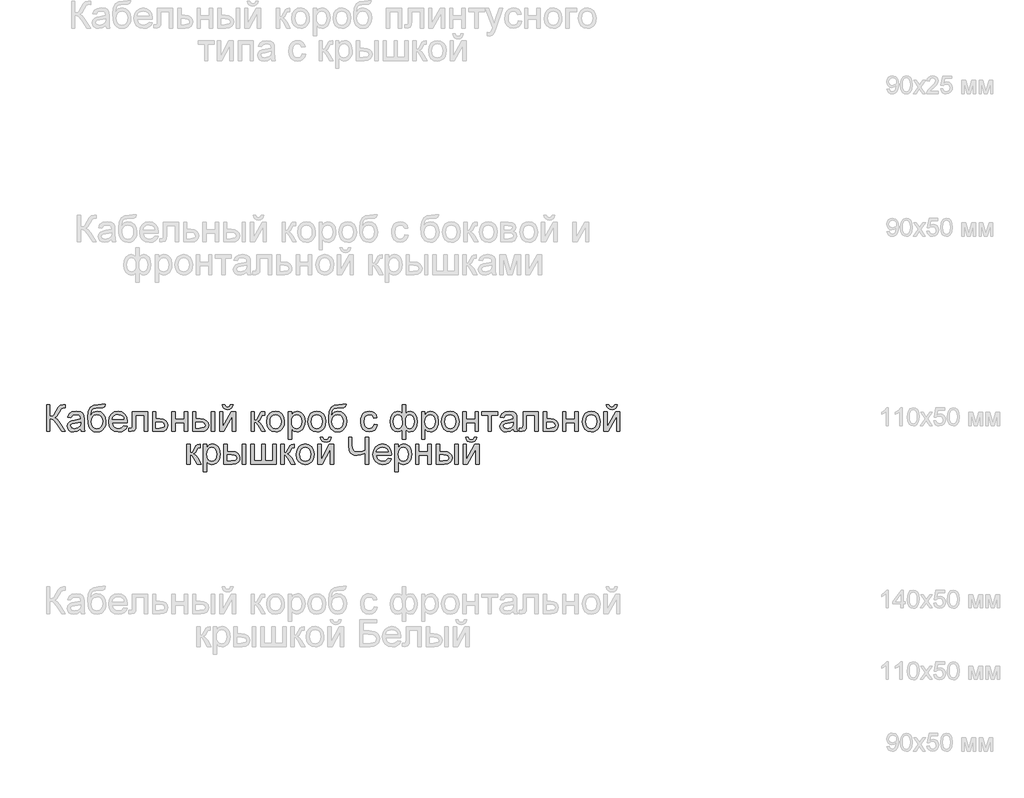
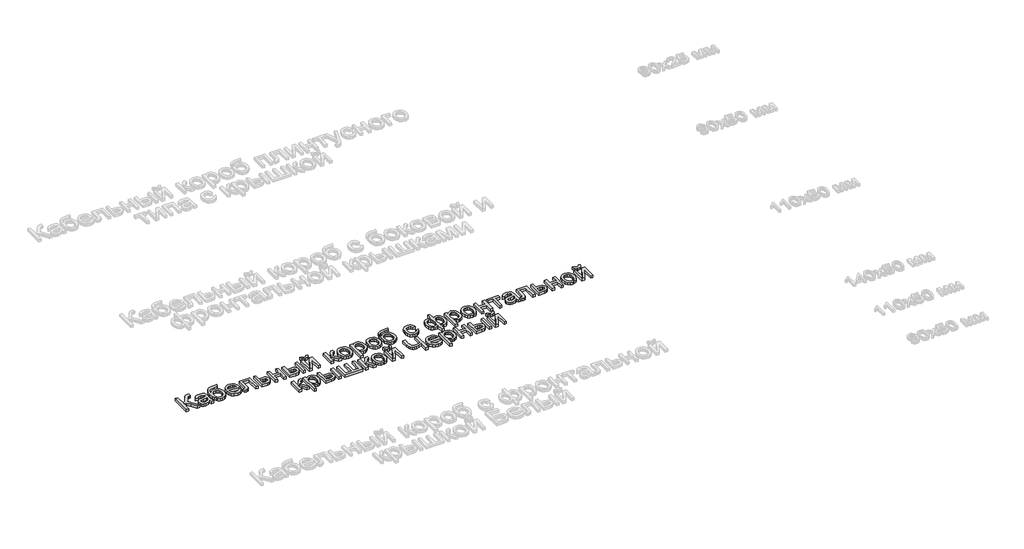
# One storey, part 26 of 48: 1 proxy.
"""IFC4 building model written with IfcOpenShell, lengths in millimetres."""

from ifc_helpers import new_model, si_unit, origin, origin_with_axes, place, context, project, spatial, polyline, outline, extrude, element, save

model = new_model("IFC4")

# Units and contexts
model_context = context("Model", 3, world=origin())
ifc_project = project(units=[si_unit("LENGTHUNIT", "METRE", prefix="MILLI")], contexts=[model_context])

# Site, building, storey
site = spatial("IfcSite", under=ifc_project)
building = spatial("IfcBuilding", under=site)
storey = spatial("IfcBuildingStorey", under=building, Name="Этаж 01", Elevation=0.0)

# Proxy
placement = place(None, origin())
element("IfcBuildingElementProxy", 1, Name="150 мм Arial", ObjectType="150 мм Arial", at=placement, inside=storey, context=model_context, shape_type="SweptSolid", body=[
    extrude(outline(polyline([(-4561.0026939, 2464.5958673), (-4542.1671357, 2464.5958673), (-4542.1671357, 2398.6714138), (-4529.415426, 2399.917614), (-4521.1058915, 2403.6562148), (-4506.4090058, 2428.8745256), (-4496.0163394, 2449.9357698), (-4484.2441156, 2460.3652244), (-4467.4135143, 2464.5958673), (-4455.0526792, 2464.3751381), (-4455.0526792, 2445.53958), (-4459.2097458, 2445.6499446), (-4463.3668123, 2445.7603092), (-4478.0820921, 2441.2353606), (-4489.2657048, 2421.8479795), (-4502.6014271, 2398.2299554), (-4515.6060557, 2390.4308571), (-4501.0655198, 2381.9143889), (-4486.727319, 2364.1640826), (-4455.0526792, 2313.9114021), (-4476.9048698, 2313.9114021), (-4503.686679, 2356.3649843), (-4522.5406313, 2378.5298745), (-4531.245639, 2383.0410275), (-4542.1671357, 2384.5447452), (-4542.1671357, 2313.9114021), (-4561.0026939, 2313.9114021), (-4561.0026939, 2464.5958673)])), origin_with_axes(), (0.0, 0.0, 1.0), 20.0),
    extrude(outline(polyline([(-4370.2926676, 2328.0380707), (-4388.5580086, 2315.2725655), (-4408.7363361, 2311.5569573), (-4424.4770869, 2313.7918404), (-4436.0883624, 2320.4964898), (-4443.2482657, 2330.677624), (-4445.6349002, 2343.3419617), (-4442.0296566, 2358.2411825), (-4432.5566952, 2369.0569132), (-4419.3681257, 2375.2373307), (-4403.0709533, 2378.0700221), (-4370.4030322, 2384.5447452), (-4370.2926676, 2388.7385999), (-4371.5894516, 2397.1447035), (-4375.4798037, 2402.6445393), (-4384.1802129, 2406.7280295), (-4396.3019246, 2408.0891929), (-4415.358212, 2404.4655552), (-4424.4448972, 2391.6080795), (-4443.2804554, 2393.9625242), (-4435.1318692, 2412.356624), (-4418.7243322, 2423.1355665), (-4393.8739034, 2426.924751), (-4371.0468256, 2423.5770249), (-4358.1525617, 2415.1709213), (-4352.3768144, 2402.3870219), (-4351.4571094, 2385.9059086), (-4351.4571094, 2362.4718255), (-4350.5006162, 2329.748722), (-4346.7482199, 2313.9114021), (-4365.583778, 2313.9114021), (-4370.2926676, 2328.0380707)]), holes=[polyline([(-4370.2926676, 2365.709187), (-4400.6797204, 2359.9334397), (-4416.8849222, 2356.8800191), (-4424.2241681, 2351.9136122), (-4426.799342, 2344.6663369), (-4421.1891416, 2334.4760056), (-4404.7264223, 2330.3925155), (-4385.670135, 2334.8990699), (-4373.3828763, 2345.8067711), (-4370.4030322, 2360.3748981), (-4370.2926676, 2365.709187)])]), origin_with_axes(), (0.0, 0.0, 1.0), 20.0),
    extrude(outline(polyline([(-4247.8615396, 2466.9503121), (-4231.3804262, 2466.9503121), (-4236.2364685, 2452.2534264), (-4245.8381886, 2446.9375316), (-4268.9043897, 2445.7603092), (-4299.9720242, 2441.4193016), (-4307.0997378, 2435.772313), (-4311.8914008, 2427.5133622), (-4315.9197087, 2402.9020567), (-4299.6041422, 2420.9282745), (-4289.6851239, 2425.4256319), (-4278.5796862, 2426.924751), (-4258.9807729, 2423.1125738), (-4243.0790736, 2411.6760423), (-4232.5392545, 2393.7371965), (-4229.0259814, 2370.4180766), (-4230.7688224, 2352.437844), (-4235.9973452, 2338.0076728), (-4252.5336409, 2318.4547447), (-4263.8276182, 2313.2814042), (-4278.5796862, 2311.5569573), (-4295.5804329, 2313.7780449), (-4308.3229455, 2320.4413075), (-4317.6993378, 2330.5672594), (-4324.6017238, 2343.1764148), (-4328.8507608, 2362.1637243), (-4330.2671065, 2391.4241385), (-4326.6940526, 2427.563946), (-4315.974891, 2449.604676), (-4297.8429071, 2460.8480695), (-4272.0313866, 2464.5958673), (-4251.0621129, 2465.0189316), (-4247.8615396, 2466.9503121)]), holes=[polyline([(-4247.8615396, 2371.0066877), (-4249.9032846, 2385.8277336), (-4256.0285199, 2397.6965265), (-4265.8693632, 2405.4910263), (-4279.0579328, 2408.0891929), (-4292.8075223, 2405.3438735), (-4303.0070506, 2397.1079153), (-4309.3254239, 2384.2826292), (-4311.4315483, 2367.7693262), (-4309.1046947, 2351.7618609), (-4302.1241339, 2340.0126297), (-4291.7314675, 2332.797544), (-4279.1682974, 2330.3925155), (-4266.5407479, 2333.1746231), (-4256.5435547, 2341.5209458), (-4250.0320433, 2354.4565965), (-4247.8615396, 2371.0066877)])]), origin_with_axes(), (0.0, 0.0, 1.0), 20.0),
    extrude(outline(polyline([(-4128.0055855, 2346.8736289), (-4109.5379094, 2344.5191841), (-4116.191975, 2330.6040476), (-4126.8099691, 2320.2021842), (-4141.1527683, 2313.718264), (-4158.9812495, 2311.5569573), (-4181.0817604, 2315.2863611), (-4198.0871056, 2326.4745722), (-4208.9304274, 2344.3950239), (-4212.544868, 2368.3211492), (-4208.8936392, 2393.0520163), (-4197.9399528, 2411.5472836), (-4181.1645338, 2423.0803842), (-4160.0481073, 2426.924751), (-4139.5892699, 2423.0895812), (-4123.2415137, 2411.5840718), (-4112.5223521, 2393.1255927), (-4108.9492982, 2368.4315138), (-4109.0596628, 2363.3547422), (-4193.7093099, 2363.3547422), (-4190.4489557, 2349.2556648), (-4182.8751851, 2338.8905896), (-4171.9444913, 2332.517034), (-4158.6133675, 2330.3925155), (-4140.1456914, 2334.3288528), (-4128.0055855, 2346.8736289)]), holes=[polyline([(-4193.7093099, 2382.1903004), (-4127.7848563, 2382.1903004), (-4130.3324392, 2392.1415084), (-4135.3264372, 2399.260025), (-4146.3077148, 2405.8819009), (-4160.1216837, 2408.0891929), (-4172.8182111, 2406.3279578), (-4183.3166435, 2401.0442527), (-4190.6145026, 2392.8082945), (-4193.7093099, 2382.1903004)])]), origin_with_axes(), (0.0, 0.0, 1.0), 20.0),
    extrude(outline(polyline([(-4080.695961, 2424.5703062), (-3995.9359493, 2424.5703062), (-3995.9359493, 2314.0217667), (-4014.7715074, 2314.0217667), (-4014.7715074, 2405.7347481), (-4061.8604028, 2405.7347481), (-4061.8604028, 2352.9436818), (-4063.1295957, 2328.5898937), (-4070.1009595, 2318.3075919), (-4086.5820729, 2313.9114021), (-4101.8859639, 2314.8678953), (-4101.8859639, 2332.7469602), (-4093.4614662, 2332.7469602), (-4084.944998, 2333.9057885), (-4081.5420895, 2337.5846085), (-4080.695961, 2354.0105396), (-4080.695961, 2424.5703062)])), origin_with_axes(), (0.0, 0.0, 1.0), 20.0),
    extrude(outline(polyline([(-3967.682612, 2424.5703062), (-3948.8470539, 2424.5703062), (-3948.8470539, 2384.5447452), (-3927.1420162, 2384.5447452), (-3908.3248521, 2382.1857019), (-3894.4005186, 2375.108572), (-3885.7920799, 2363.8835726), (-3882.9226003, 2349.0809208), (-3885.3644171, 2335.6026442), (-3892.6898673, 2324.2304921), (-3905.3863947, 2316.4911746), (-3923.9414428, 2313.9114021), (-3967.682612, 2313.9114021), (-3967.682612, 2424.5703062)]), holes=[polyline([(-3948.8470539, 2332.7469602), (-3931.2622945, 2332.7469602), (-3908.5455813, 2336.7016917), (-3903.4550142, 2341.7646677), (-3901.7581585, 2349.0441326), (-3906.7797477, 2360.6324155), (-3914.850159, 2364.4399941), (-3929.0182143, 2365.709187), (-3948.8470539, 2365.709187), (-3948.8470539, 2332.7469602)])]), origin_with_axes(), (0.0, 0.0, 1.0), 20.0),
    extrude(outline(polyline([(-3859.3781527, 2424.5703062), (-3840.5425945, 2424.5703062), (-3840.5425945, 2382.1903004), (-3791.0992544, 2382.1903004), (-3791.0992544, 2424.5703062), (-3772.2636962, 2424.5703062), (-3772.2636962, 2313.9114021), (-3791.0992544, 2313.9114021), (-3791.0992544, 2363.3547422), (-3840.5425945, 2363.3547422), (-3840.5425945, 2313.9114021), (-3859.3781527, 2313.9114021), (-3859.3781527, 2424.5703062)])), origin_with_axes(), (0.0, 0.0, 1.0), 20.0),
    extrude(outline(polyline([(-3640.4147891, 2424.5703062), (-3621.579231, 2424.5703062), (-3621.579231, 2313.9114021), (-3640.4147891, 2313.9114021), (-3640.4147891, 2424.5703062)])), origin_with_axes(), (0.0, 0.0, 1.0), 20.0),
    extrude(outline(polyline([(-3744.010359, 2424.5703062), (-3725.1748008, 2424.5703062), (-3725.1748008, 2384.5447452), (-3701.8878705, 2384.5447452), (-3681.7601269, 2382.1857019), (-3666.8471105, 2375.108572), (-3657.6178709, 2363.8835726), (-3654.5414577, 2349.0809208), (-3657.1212302, 2335.6026442), (-3664.8605477, 2324.2304921), (-3678.2652479, 2316.4911746), (-3697.8411686, 2313.9114021), (-3744.010359, 2313.9114021), (-3744.010359, 2424.5703062)]), holes=[polyline([(-3725.1748008, 2332.7469602), (-3705.8242079, 2332.7469602), (-3680.8450204, 2336.7016917), (-3675.244017, 2341.7646677), (-3673.3770159, 2349.0441326), (-3678.9136399, 2360.6324155), (-3687.7933916, 2364.4399941), (-3703.3593985, 2365.709187), (-3725.1748008, 2365.709187), (-3725.1748008, 2332.7469602)])]), origin_with_axes(), (0.0, 0.0, 1.0), 20.0),
    extrude(outline(polyline([(-3532.1103297, 2464.5958673), (-3517.9836611, 2464.5958673), (-3521.0232861, 2452.5339364), (-3527.1255287, 2443.6449877), (-3536.0144774, 2438.1681445), (-3547.4142207, 2436.3425301), (-3559.7842528, 2438.1543489), (-3569.3767759, 2443.5898054), (-3575.9342724, 2452.4649585), (-3579.1992251, 2464.5958673), (-3565.0725565, 2464.5958673), (-3559.7750558, 2453.9824718), (-3549.1064779, 2450.4691987), (-3537.4078305, 2453.8721072), (-3532.1103297, 2464.5958673)])), origin_with_axes(), (0.0, 0.0, 1.0), 20.0),
    extrude(outline(polyline([(-3593.3258937, 2424.5703062), (-3574.4903356, 2424.5703062), (-3574.4903356, 2340.1781766), (-3528.2107806, 2424.5703062), (-3503.8569925, 2424.5703062), (-3503.8569925, 2313.9114021), (-3522.6925507, 2313.9114021), (-3522.6925507, 2397.788497), (-3568.6778001, 2313.9114021), (-3593.3258937, 2313.9114021), (-3593.3258937, 2424.5703062)])), origin_with_axes(), (0.0, 0.0, 1.0), 20.0),
    extrude(outline(polyline([(-3416.7425361, 2424.5703062), (-3397.9069779, 2424.5703062), (-3397.9069779, 2377.4814109), (-3385.2886255, 2380.8659252), (-3374.9511414, 2400.5844002), (-3366.3610968, 2417.5989424), (-3358.7827277, 2423.1355665), (-3345.005547, 2424.5703062), (-3341.4003034, 2424.5703062), (-3341.4003034, 2405.6243835), (-3346.477075, 2405.7347481), (-3355.6741249, 2403.7481853), (-3362.148848, 2391.3505621), (-3369.7456112, 2377.9412634), (-3380.3957949, 2371.3745697), (-3368.5132065, 2364.044521), (-3356.8513472, 2348.6026742), (-3336.6914139, 2313.9114021), (-3358.102146, 2313.9114021), (-3377.8574092, 2347.8669103), (-3387.790223, 2362.2327022), (-3397.9069779, 2365.709187), (-3397.9069779, 2313.9114021), (-3416.7425361, 2313.9114021), (-3416.7425361, 2424.5703062)])), origin_with_axes(), (0.0, 0.0, 1.0), 20.0),
    extrude(outline(polyline([(-3329.6280796, 2369.2408542), (-3325.5537865, 2395.9214959), (-3313.3309072, 2414.6742806), (-3298.2293513, 2423.8621334), (-3280.1479513, 2426.924751), (-3260.3604984, 2423.1953473), (-3244.5553682, 2412.0071361), (-3234.1948915, 2394.2430343), (-3230.7413993, 2370.7859586), (-3232.2681096, 2351.7572624), (-3236.8482404, 2337.2719088), (-3244.3484346, 2326.4239885), (-3254.6353349, 2318.3075919), (-3266.8536157, 2313.244616), (-3280.1479513, 2311.5569573), (-3300.1745274, 2315.2725655), (-3315.9612635, 2326.4193899), (-3326.2113756, 2344.5559723), (-3329.6280796, 2369.2408542)]), holes=[polyline([(-3310.7925214, 2369.2776424), (-3308.6128206, 2352.2309104), (-3302.0737182, 2340.0862061), (-3292.2328748, 2332.8159381), (-3280.1479513, 2330.3925155), (-3268.11821, 2332.8297337), (-3258.2957607, 2340.1413884), (-3251.7566583, 2352.4470411), (-3249.5769575, 2369.8662536), (-3251.7704538, 2386.4163448), (-3258.350943, 2398.3955023), (-3268.1871879, 2405.6657702), (-3280.1479513, 2408.0891929), (-3292.2328748, 2405.6749673), (-3302.0737182, 2398.4322905), (-3308.6128206, 2386.3151773), (-3310.7925214, 2369.2776424)])]), origin_with_axes(), (0.0, 0.0, 1.0), 20.0),
    extrude(outline(polyline([(-3209.5513964, 2271.5313963), (-3209.5513964, 2424.5703062), (-3190.7158382, 2424.5703062), (-3190.7158382, 2406.1026301), (-3177.6928156, 2421.7192208), (-3160.1080562, 2426.924751), (-3147.3701421, 2425.1037351), (-3136.2325147, 2419.6406875), (-3127.1642236, 2410.8667019), (-3120.6343181, 2399.1128722), (-3115.3736056, 2370.0869828), (-3116.8589292, 2353.9783499), (-3121.3148998, 2339.5711713), (-3128.5989633, 2327.5966123), (-3138.5685654, 2318.7858385), (-3150.1798409, 2313.3641776), (-3162.3889246, 2311.5569573), (-3178.7780675, 2316.3946056), (-3190.7158382, 2328.6266819), (-3190.7158382, 2271.5313963), (-3209.5513964, 2271.5313963)]), holes=[polyline([(-3190.7158382, 2368.3579374), (-3188.6786917, 2351.4721538), (-3182.567252, 2339.6631418), (-3173.5495446, 2332.710172), (-3162.7935948, 2330.3925155), (-3151.862901, 2332.7929455), (-3142.6152674, 2339.9942356), (-3136.3106897, 2352.2355089), (-3134.2091638, 2369.755889), (-3136.2601059, 2386.549702), (-3142.4129323, 2398.524261), (-3151.4168441, 2405.6979599), (-3162.0210426, 2408.0891929), (-3172.6666278, 2405.5462086), (-3182.015429, 2397.9172557), (-3188.5407359, 2385.4414575), (-3190.7158382, 2368.3579374)])]), origin_with_axes(), (0.0, 0.0, 1.0), 20.0),
    extrude(outline(polyline([(-3098.8924922, 2369.2408542), (-3094.8181991, 2395.9214959), (-3082.5953198, 2414.6742806), (-3067.4937639, 2423.8621334), (-3049.4123639, 2426.924751), (-3029.6249111, 2423.1953473), (-3013.8197808, 2412.0071361), (-3003.4593042, 2394.2430343), (-3000.0058119, 2370.7859586), (-3001.5325222, 2351.7572624), (-3006.112653, 2337.2719088), (-3013.6128472, 2326.4239885), (-3023.8997475, 2318.3075919), (-3036.1180283, 2313.244616), (-3049.4123639, 2311.5569573), (-3069.43894, 2315.2725655), (-3085.2256761, 2326.4193899), (-3095.4757882, 2344.5559723), (-3098.8924922, 2369.2408542)]), holes=[polyline([(-3080.0569341, 2369.2776424), (-3077.8772333, 2352.2309104), (-3071.3381308, 2340.0862061), (-3061.4972874, 2332.8159381), (-3049.4123639, 2330.3925155), (-3037.3826226, 2332.8297337), (-3027.5601734, 2340.1413884), (-3021.0210709, 2352.4470411), (-3018.8413701, 2369.8662536), (-3021.0348665, 2386.4163448), (-3027.6153557, 2398.3955023), (-3037.4516005, 2405.6657702), (-3049.4123639, 2408.0891929), (-3061.4972874, 2405.6749673), (-3071.3381308, 2398.4322905), (-3077.8772333, 2386.3151773), (-3080.0569341, 2369.2776424)])]), origin_with_axes(), (0.0, 0.0, 1.0), 20.0),
    extrude(outline(polyline([(-2901.1191316, 2466.9503121), (-2884.6380182, 2466.9503121), (-2889.4940606, 2452.2534264), (-2899.0957806, 2446.9375316), (-2922.1619817, 2445.7603092), (-2953.2296162, 2441.4193016), (-2960.3573299, 2435.772313), (-2965.1489929, 2427.5133622), (-2969.1773007, 2402.9020567), (-2952.8617342, 2420.9282745), (-2942.9427159, 2425.4256319), (-2931.8372782, 2426.924751), (-2912.2383649, 2423.1125738), (-2896.3366657, 2411.6760423), (-2885.7968465, 2393.7371965), (-2882.2835735, 2370.4180766), (-2884.0264144, 2352.437844), (-2889.2549373, 2338.0076728), (-2905.791233, 2318.4547447), (-2917.0852102, 2313.2814042), (-2931.8372782, 2311.5569573), (-2948.8380249, 2313.7780449), (-2961.5805375, 2320.4413075), (-2970.9569299, 2330.5672594), (-2977.8593158, 2343.1764148), (-2982.1083529, 2362.1637243), (-2983.5246985, 2391.4241385), (-2979.9516447, 2427.563946), (-2969.232483, 2449.604676), (-2951.1004992, 2460.8480695), (-2925.2889787, 2464.5958673), (-2904.319705, 2465.0189316), (-2901.1191316, 2466.9503121)]), holes=[polyline([(-2901.1191316, 2371.0066877), (-2903.1608767, 2385.8277336), (-2909.2861119, 2397.6965265), (-2919.1269553, 2405.4910263), (-2932.3155248, 2408.0891929), (-2946.0651144, 2405.3438735), (-2956.2646427, 2397.1079153), (-2962.583016, 2384.2826292), (-2964.6891404, 2367.7693262), (-2962.3622868, 2351.7618609), (-2955.3817259, 2340.0126297), (-2944.9890595, 2332.797544), (-2932.4258894, 2330.3925155), (-2919.7983399, 2333.1746231), (-2909.8011467, 2341.5209458), (-2903.2896354, 2354.4565965), (-2901.1191316, 2371.0066877)])]), origin_with_axes(), (0.0, 0.0, 1.0), 20.0),
    extrude(outline(polyline([(-2729.2446635, 2353.9369632), (-2710.4091053, 2351.5825184), (-2715.6606208, 2334.830092), (-2725.5290553, 2322.1703529), (-2739.0855068, 2314.2103062), (-2755.4010733, 2311.5569573), (-2775.4368465, 2315.2587699), (-2791.104021, 2326.3642076), (-2801.2161773, 2344.3858269), (-2804.5868961, 2368.836184), (-2803.1475578, 2385.5978074), (-2798.8295429, 2400.1245477), (-2791.5638735, 2411.8553848), (-2781.2815717, 2420.2292987), (-2768.9805175, 2425.2508879), (-2755.6585907, 2426.924751), (-2739.7430959, 2424.6254885), (-2727.0189774, 2417.7277011), (-2717.8909054, 2406.5992708), (-2712.7635501, 2391.6080795), (-2731.5991082, 2389.2536347), (-2740.3363056, 2403.3619092), (-2755.5114379, 2408.0891929), (-2767.6837334, 2405.7623392), (-2777.3452343, 2398.7817784), (-2783.649812, 2386.7704312), (-2785.7513379, 2369.3512188), (-2783.6957973, 2351.6974815), (-2777.5291753, 2339.6447477), (-2768.0424184, 2332.7055735), (-2756.0264727, 2330.3925155), (-2746.2730013, 2331.8364523), (-2738.2761665, 2336.1682628), (-2732.4590324, 2343.4983116), (-2729.2446635, 2353.9369632)])), origin_with_axes(), (0.0, 0.0, 1.0), 20.0),
    extrude(outline(polyline([(-2571.4968639, 2464.5958673), (-2552.6613058, 2464.5958673), (-2552.6613058, 2413.9385166), (-2540.6867468, 2423.7057836), (-2526.6520487, 2426.924751), (-2510.1663368, 2422.8320638), (-2497.4974006, 2410.5540022), (-2489.4269893, 2392.067932), (-2486.7368523, 2369.3512188), (-2489.633923, 2345.9401283), (-2498.3251351, 2327.5046418), (-2511.3205666, 2315.5438785), (-2527.1302953, 2311.5569573), (-2538.6450018, 2313.3963673), (-2552.6613058, 2323.4395458), (-2552.6613058, 2271.5313963), (-2571.4968639, 2271.5313963), (-2571.4968639, 2323.4395458), (-2583.5266052, 2314.5368015), (-2597.7636384, 2311.5569573), (-2613.545776, 2315.364536), (-2627.194198, 2326.7872719), (-2636.6303712, 2345.3009333), (-2639.7757622, 2370.3812884), (-2636.9292753, 2392.4634051), (-2628.3898145, 2410.6643668), (-2615.0402966, 2422.859655), (-2597.7636384, 2426.924751), (-2583.1771173, 2423.7057836), (-2571.4968639, 2413.9385166), (-2571.4968639, 2464.5958673)]), holes=[polyline([(-2620.9402041, 2370.7859586), (-2619.0548089, 2352.3090853), (-2613.3986232, 2339.8470828), (-2604.9465344, 2332.7561573), (-2594.6734296, 2330.3925155), (-2584.4509087, 2332.7423617), (-2577.1806408, 2339.7919005), (-2572.8350347, 2351.5411317), (-2571.3864993, 2367.9900554), (-2572.9086111, 2385.533428), (-2577.4749464, 2398.0644085), (-2585.1130963, 2405.5829968), (-2595.850652, 2408.0891929), (-2605.9306187, 2405.6427776), (-2613.9504462, 2398.3035318), (-2619.1927646, 2386.5313079), (-2620.9402041, 2370.7859586)]), polyline([(-2552.7716704, 2368.9097604), (-2551.2035734, 2349.8396775), (-2546.4992824, 2338.2467961), (-2539.4313495, 2332.3560856), (-2530.7723271, 2330.3925155), (-2521.0924321, 2332.8067411), (-2512.9484444, 2340.0494179), (-2507.4164189, 2352.3780632), (-2505.5724104, 2370.0501946), (-2507.2738646, 2386.8072194), (-2512.3782273, 2398.6714138), (-2520.1497345, 2405.7347481), (-2529.8526221, 2408.0891929), (-2539.8452168, 2405.6381791), (-2547.0143172, 2398.2851377), (-2551.3323321, 2386.0392658), (-2552.7716704, 2368.9097604)])]), origin_with_axes(), (0.0, 0.0, 1.0), 20.0),
    extrude(outline(polyline([(-2463.1924046, 2271.5313963), (-2463.1924046, 2424.5703062), (-2444.3568464, 2424.5703062), (-2444.3568464, 2406.1026301), (-2431.3338238, 2421.7192208), (-2413.7490644, 2426.924751), (-2401.0111503, 2425.1037351), (-2389.8735229, 2419.6406875), (-2380.8052317, 2410.8667019), (-2374.2753263, 2399.1128722), (-2369.0146138, 2370.0869828), (-2370.4999374, 2353.9783499), (-2374.955908, 2339.5711713), (-2382.2399715, 2327.5966123), (-2392.2095736, 2318.7858385), (-2403.8208491, 2313.3641776), (-2416.0299328, 2311.5569573), (-2432.4190757, 2316.3946056), (-2444.3568464, 2328.6266819), (-2444.3568464, 2271.5313963), (-2463.1924046, 2271.5313963)]), holes=[polyline([(-2444.3568464, 2368.3579374), (-2442.3196999, 2351.4721538), (-2436.2082602, 2339.6631418), (-2427.1905528, 2332.710172), (-2416.434603, 2330.3925155), (-2405.5039092, 2332.7929455), (-2396.2562755, 2339.9942356), (-2389.9516978, 2352.2355089), (-2387.850172, 2369.755889), (-2389.9011141, 2386.549702), (-2396.0539404, 2398.524261), (-2405.0578523, 2405.6979599), (-2415.6620508, 2408.0891929), (-2426.307636, 2405.5462086), (-2435.6564372, 2397.9172557), (-2442.1817441, 2385.4414575), (-2444.3568464, 2368.3579374)])]), origin_with_axes(), (0.0, 0.0, 1.0), 20.0),
    extrude(outline(polyline([(-2352.5335004, 2369.2408542), (-2348.4592073, 2395.9214959), (-2336.236328, 2414.6742806), (-2321.1347721, 2423.8621334), (-2303.0533721, 2426.924751), (-2283.2659192, 2423.1953473), (-2267.460789, 2412.0071361), (-2257.1003123, 2394.2430343), (-2253.6468201, 2370.7859586), (-2255.1735304, 2351.7572624), (-2259.7536612, 2337.2719088), (-2267.2538554, 2326.4239885), (-2277.5407557, 2318.3075919), (-2289.7590365, 2313.244616), (-2303.0533721, 2311.5569573), (-2323.0799482, 2315.2725655), (-2338.8666843, 2326.4193899), (-2349.1167964, 2344.5559723), (-2352.5335004, 2369.2408542)]), holes=[polyline([(-2333.6979423, 2369.2776424), (-2331.5182414, 2352.2309104), (-2324.979139, 2340.0862061), (-2315.1382956, 2332.8159381), (-2303.0533721, 2330.3925155), (-2291.0236308, 2332.8297337), (-2281.2011815, 2340.1413884), (-2274.6620791, 2352.4470411), (-2272.4823783, 2369.8662536), (-2274.6758747, 2386.4163448), (-2281.2563638, 2398.3955023), (-2291.0926087, 2405.6657702), (-2303.0533721, 2408.0891929), (-2315.1382956, 2405.6749673), (-2324.979139, 2398.4322905), (-2331.5182414, 2386.3151773), (-2333.6979423, 2369.2776424)])]), origin_with_axes(), (0.0, 0.0, 1.0), 20.0),
    extrude(outline(polyline([(-2232.4568172, 2424.5703062), (-2213.621259, 2424.5703062), (-2213.621259, 2382.1903004), (-2164.1779189, 2382.1903004), (-2164.1779189, 2424.5703062), (-2145.3423607, 2424.5703062), (-2145.3423607, 2313.9114021), (-2164.1779189, 2313.9114021), (-2164.1779189, 2363.3547422), (-2213.621259, 2363.3547422), (-2213.621259, 2313.9114021), (-2232.4568172, 2313.9114021), (-2232.4568172, 2424.5703062)])), origin_with_axes(), (0.0, 0.0, 1.0), 20.0),
    extrude(outline(polyline([(-2126.5068026, 2424.5703062), (-2037.0379013, 2424.5703062), (-2037.0379013, 2405.7347481), (-2072.3545729, 2405.7347481), (-2072.3545729, 2313.9114021), (-2091.190131, 2313.9114021), (-2091.190131, 2405.7347481), (-2126.5068026, 2405.7347481), (-2126.5068026, 2424.5703062)])), origin_with_axes(), (0.0, 0.0, 1.0), 20.0),
    extrude(outline(polyline([(-1949.9234449, 2328.0380707), (-1968.188786, 2315.2725655), (-1988.3671134, 2311.5569573), (-2004.1078643, 2313.7918404), (-2015.7191397, 2320.4964898), (-2022.8790431, 2330.677624), (-2025.2656775, 2343.3419617), (-2021.660434, 2358.2411825), (-2012.1874726, 2369.0569132), (-1998.998903, 2375.2373307), (-1982.7017307, 2378.0700221), (-1950.0338095, 2384.5447452), (-1949.9234449, 2388.7385999), (-1951.2202289, 2397.1447035), (-1955.110581, 2402.6445393), (-1963.8109902, 2406.7280295), (-1975.932702, 2408.0891929), (-1994.9889893, 2404.4655552), (-2004.0756746, 2391.6080795), (-2022.9112327, 2393.9625242), (-2014.7626465, 2412.356624), (-1998.3551096, 2423.1355665), (-1973.5046808, 2426.924751), (-1950.677603, 2423.5770249), (-1937.7833391, 2415.1709213), (-1932.0075917, 2402.3870219), (-1931.0878867, 2385.9059086), (-1931.0878867, 2362.4718255), (-1930.1313936, 2329.748722), (-1926.3789972, 2313.9114021), (-1945.2145554, 2313.9114021), (-1949.9234449, 2328.0380707)]), holes=[polyline([(-1949.9234449, 2365.709187), (-1980.3104977, 2359.9334397), (-1996.5156996, 2356.8800191), (-2003.8549454, 2351.9136122), (-2006.4301194, 2344.6663369), (-2000.8199189, 2334.4760056), (-1984.3571996, 2330.3925155), (-1965.3009123, 2334.8990699), (-1953.0136537, 2345.8067711), (-1950.0338095, 2360.3748981), (-1949.9234449, 2365.709187)])]), origin_with_axes(), (0.0, 0.0, 1.0), 20.0),
    extrude(outline(polyline([(-1895.7712152, 2424.5703062), (-1811.0112035, 2424.5703062), (-1811.0112035, 2314.0217667), (-1829.8467617, 2314.0217667), (-1829.8467617, 2405.7347481), (-1876.935657, 2405.7347481), (-1876.935657, 2352.9436818), (-1878.2048499, 2328.5898937), (-1885.1762137, 2318.3075919), (-1901.6573271, 2313.9114021), (-1916.9612181, 2314.8678953), (-1916.9612181, 2332.7469602), (-1908.5367204, 2332.7469602), (-1900.0202522, 2333.9057885), (-1896.6173438, 2337.5846085), (-1895.7712152, 2354.0105396), (-1895.7712152, 2424.5703062)])), origin_with_axes(), (0.0, 0.0, 1.0), 20.0),
    extrude(outline(polyline([(-1782.7578663, 2424.5703062), (-1763.9223081, 2424.5703062), (-1763.9223081, 2384.5447452), (-1742.2172704, 2384.5447452), (-1723.4001064, 2382.1857019), (-1709.4757728, 2375.108572), (-1700.8673342, 2363.8835726), (-1697.9978546, 2349.0809208), (-1700.4396713, 2335.6026442), (-1707.7651216, 2324.2304921), (-1720.4616489, 2316.4911746), (-1739.0166971, 2313.9114021), (-1782.7578663, 2313.9114021), (-1782.7578663, 2424.5703062)]), holes=[polyline([(-1763.9223081, 2332.7469602), (-1746.3375488, 2332.7469602), (-1723.6208356, 2336.7016917), (-1718.5302685, 2341.7646677), (-1716.8334127, 2349.0441326), (-1721.855002, 2360.6324155), (-1729.9254133, 2364.4399941), (-1744.0934686, 2365.709187), (-1763.9223081, 2365.709187), (-1763.9223081, 2332.7469602)])]), origin_with_axes(), (0.0, 0.0, 1.0), 20.0),
    extrude(outline(polyline([(-1674.4534069, 2424.5703062), (-1655.6178488, 2424.5703062), (-1655.6178488, 2382.1903004), (-1606.1745086, 2382.1903004), (-1606.1745086, 2424.5703062), (-1587.3389504, 2424.5703062), (-1587.3389504, 2313.9114021), (-1606.1745086, 2313.9114021), (-1606.1745086, 2363.3547422), (-1655.6178488, 2363.3547422), (-1655.6178488, 2313.9114021), (-1674.4534069, 2313.9114021), (-1674.4534069, 2424.5703062)])), origin_with_axes(), (0.0, 0.0, 1.0), 20.0),
    extrude(outline(polyline([(-1563.7945028, 2369.2408542), (-1559.7202097, 2395.9214959), (-1547.4973304, 2414.6742806), (-1532.3957745, 2423.8621334), (-1514.3143744, 2426.924751), (-1494.5269216, 2423.1953473), (-1478.7217914, 2412.0071361), (-1468.3613147, 2394.2430343), (-1464.9078225, 2370.7859586), (-1466.4345327, 2351.7572624), (-1471.0146636, 2337.2719088), (-1478.5148577, 2326.4239885), (-1488.801758, 2318.3075919), (-1501.0200388, 2313.244616), (-1514.3143744, 2311.5569573), (-1534.3409505, 2315.2725655), (-1550.1276866, 2326.4193899), (-1560.3777987, 2344.5559723), (-1563.7945028, 2369.2408542)]), holes=[polyline([(-1544.9589446, 2369.2776424), (-1542.7792438, 2352.2309104), (-1536.2401413, 2340.0862061), (-1526.3992979, 2332.8159381), (-1514.3143744, 2330.3925155), (-1502.2846332, 2332.8297337), (-1492.4621839, 2340.1413884), (-1485.9230814, 2352.4470411), (-1483.7433806, 2369.8662536), (-1485.936877, 2386.4163448), (-1492.5173662, 2398.3955023), (-1502.353611, 2405.6657702), (-1514.3143744, 2408.0891929), (-1526.3992979, 2405.6749673), (-1536.2401413, 2398.4322905), (-1542.7792438, 2386.3151773), (-1544.9589446, 2369.2776424)])]), origin_with_axes(), (0.0, 0.0, 1.0), 20.0),
    extrude(outline(polyline([(-1443.7178195, 2424.5703062), (-1424.8822614, 2424.5703062), (-1424.8822614, 2340.1781766), (-1378.6027064, 2424.5703062), (-1354.2489183, 2424.5703062), (-1354.2489183, 2313.9114021), (-1373.0844765, 2313.9114021), (-1373.0844765, 2397.788497), (-1419.0697259, 2313.9114021), (-1443.7178195, 2313.9114021), (-1443.7178195, 2424.5703062)])), origin_with_axes(), (0.0, 0.0, 1.0), 20.0),
    extrude(outline(polyline([(-1382.5022555, 2464.5958673), (-1368.3755869, 2464.5958673), (-1371.4152119, 2452.5339364), (-1377.5174545, 2443.6449877), (-1386.4064032, 2438.1681445), (-1397.8061465, 2436.3425301), (-1410.1761786, 2438.1543489), (-1419.7687016, 2443.5898054), (-1426.3261982, 2452.4649585), (-1429.5911509, 2464.5958673), (-1415.4644823, 2464.5958673), (-1410.1669816, 2453.9824718), (-1399.4984037, 2450.4691987), (-1387.7997563, 2453.8721072), (-1382.5022555, 2464.5958673)])), origin_with_axes(), (0.0, 0.0, 1.0), 20.0),
    extrude(outline(polyline([(-3775.7953634, 2241.6080795), (-3756.9598052, 2241.6080795), (-3756.9598052, 2194.5191841), (-3744.3414528, 2197.9036985), (-3734.0039687, 2217.6221734), (-3725.4139241, 2234.6367157), (-3717.835555, 2240.1733397), (-3704.0583743, 2241.6080795), (-3700.4531307, 2241.6080795), (-3700.4531307, 2222.6621567), (-3705.5299023, 2222.7725213), (-3714.7269522, 2220.7859586), (-3721.2016753, 2208.3883353), (-3728.7984385, 2194.9790366), (-3739.4486222, 2188.412343), (-3727.5660338, 2181.0822942), (-3715.9041745, 2165.6404475), (-3695.7442412, 2130.9491753), (-3717.1549733, 2130.9491753), (-3736.9102365, 2164.9046835), (-3746.8430503, 2179.2704754), (-3756.9598052, 2182.7469602), (-3756.9598052, 2130.9491753), (-3775.7953634, 2130.9491753), (-3775.7953634, 2241.6080795)])), origin_with_axes(), (0.0, 0.0, 1.0), 20.0),
    extrude(outline(polyline([(-3683.9720174, 2088.5691695), (-3683.9720174, 2241.6080795), (-3665.1364592, 2241.6080795), (-3665.1364592, 2223.1404033), (-3652.1134366, 2238.756994), (-3634.5286772, 2243.9625242), (-3621.7907631, 2242.1415084), (-3610.6531357, 2236.6784607), (-3601.5848445, 2227.9044752), (-3595.0549391, 2216.1506454), (-3589.7942266, 2187.124756), (-3591.2795501, 2171.0161231), (-3595.7355208, 2156.6089445), (-3603.0195843, 2144.6343855), (-3612.9891864, 2135.8236118), (-3624.6004619, 2130.4019509), (-3636.8095456, 2128.5947306), (-3653.1986885, 2133.4323788), (-3665.1364592, 2145.6644551), (-3665.1364592, 2088.5691695), (-3683.9720174, 2088.5691695)]), holes=[polyline([(-3665.1364592, 2185.3957106), (-3663.0993127, 2168.509927), (-3656.987873, 2156.700915), (-3647.9701656, 2149.7479453), (-3637.2142158, 2147.4302887), (-3626.283522, 2149.8307187), (-3617.0358883, 2157.0320088), (-3610.7313106, 2169.2732822), (-3608.6297847, 2186.7936622), (-3610.6807269, 2203.5874753), (-3616.8335532, 2215.5620342), (-3625.8374651, 2222.7357331), (-3636.4416636, 2225.1269661), (-3647.0872488, 2222.5839818), (-3656.43605, 2214.9550289), (-3662.9613569, 2202.4792308), (-3665.1364592, 2185.3957106)])]), origin_with_axes(), (0.0, 0.0, 1.0), 20.0),
    extrude(outline(polyline([(-3465.0086538, 2241.6080795), (-3446.1730957, 2241.6080795), (-3446.1730957, 2130.9491753), (-3465.0086538, 2130.9491753), (-3465.0086538, 2241.6080795)])), origin_with_axes(), (0.0, 0.0, 1.0), 20.0),
    extrude(outline(polyline([(-3568.6042237, 2241.6080795), (-3549.7686655, 2241.6080795), (-3549.7686655, 2201.5825184), (-3526.4817352, 2201.5825184), (-3506.3539916, 2199.2234751), (-3491.4409752, 2192.1463452), (-3482.2117356, 2180.9213458), (-3479.1353224, 2166.1186941), (-3481.7150949, 2152.6404175), (-3489.4544124, 2141.2682653), (-3502.8591126, 2133.5289478), (-3522.4350333, 2130.9491753), (-3568.6042237, 2130.9491753), (-3568.6042237, 2241.6080795)]), holes=[polyline([(-3549.7686655, 2149.7847335), (-3530.4180726, 2149.7847335), (-3505.4388851, 2153.7394649), (-3499.8378817, 2158.8024409), (-3497.9708806, 2166.0819059), (-3503.5075046, 2177.6701887), (-3512.3872563, 2181.4777674), (-3527.9532632, 2182.7469602), (-3549.7686655, 2182.7469602), (-3549.7686655, 2149.7847335)])]), origin_with_axes(), (0.0, 0.0, 1.0), 20.0),
    extrude(outline(polyline([(-3417.9197584, 2241.6080795), (-3399.0842003, 2241.6080795), (-3399.0842003, 2149.7847335), (-3356.7041944, 2149.7847335), (-3356.7041944, 2241.6080795), (-3337.8686363, 2241.6080795), (-3337.8686363, 2149.7847335), (-3295.4886305, 2149.7847335), (-3295.4886305, 2241.6080795), (-3276.6530723, 2241.6080795), (-3276.6530723, 2130.9491753), (-3417.9197584, 2130.9491753), (-3417.9197584, 2241.6080795)])), origin_with_axes(), (0.0, 0.0, 1.0), 20.0),
    extrude(outline(polyline([(-3250.7541798, 2241.6080795), (-3231.9186217, 2241.6080795), (-3231.9186217, 2194.5191841), (-3219.3002692, 2197.9036985), (-3208.9627852, 2217.6221734), (-3200.3727406, 2234.6367157), (-3192.7943715, 2240.1733397), (-3179.0171908, 2241.6080795), (-3175.4119472, 2241.6080795), (-3175.4119472, 2222.6621567), (-3180.4887188, 2222.7725213), (-3189.6857686, 2220.7859586), (-3196.1604918, 2208.3883353), (-3203.757255, 2194.9790366), (-3214.4074387, 2188.412343), (-3202.5248503, 2181.0822942), (-3190.862991, 2165.6404475), (-3170.7030577, 2130.9491753), (-3192.1137898, 2130.9491753), (-3211.8690529, 2164.9046835), (-3221.8018668, 2179.2704754), (-3231.9186217, 2182.7469602), (-3231.9186217, 2130.9491753), (-3250.7541798, 2130.9491753), (-3250.7541798, 2241.6080795)])), origin_with_axes(), (0.0, 0.0, 1.0), 20.0),
    extrude(outline(polyline([(-3163.6397234, 2186.2786274), (-3159.5654303, 2212.9592691), (-3147.342551, 2231.7120538), (-3132.2409951, 2240.8999066), (-3114.159595, 2243.9625242), (-3094.3721422, 2240.2331205), (-3078.567012, 2229.0449093), (-3068.2065353, 2211.2808075), (-3064.7530431, 2187.8237318), (-3066.2797534, 2168.7950356), (-3070.8598842, 2154.309682), (-3078.3600784, 2143.4617617), (-3088.6469787, 2135.3453652), (-3100.8652594, 2130.2823892), (-3114.159595, 2128.5947306), (-3134.1861711, 2132.3103387), (-3149.9729073, 2143.4571632), (-3160.2230193, 2161.5937455), (-3163.6397234, 2186.2786274)]), holes=[polyline([(-3144.8041652, 2186.3154156), (-3142.6244644, 2169.2686837), (-3136.0853619, 2157.1239793), (-3126.2445186, 2149.8537114), (-3114.159595, 2147.4302887), (-3102.1298538, 2149.8675069), (-3092.3074045, 2157.1791616), (-3085.768302, 2169.4848143), (-3083.5886012, 2186.9040268), (-3085.7820976, 2203.4541181), (-3092.3625868, 2215.4332755), (-3102.1988317, 2222.7035435), (-3114.159595, 2225.1269661), (-3126.2445186, 2222.7127405), (-3136.0853619, 2215.4700637), (-3142.6244644, 2203.3529505), (-3144.8041652, 2186.3154156)])]), origin_with_axes(), (0.0, 0.0, 1.0), 20.0),
    extrude(outline(polyline([(-3043.5630402, 2241.6080795), (-3024.727482, 2241.6080795), (-3024.727482, 2157.2159498), (-2978.447927, 2241.6080795), (-2954.0941389, 2241.6080795), (-2954.0941389, 2130.9491753), (-2972.9296971, 2130.9491753), (-2972.9296971, 2214.8262702), (-3018.9149465, 2130.9491753), (-3043.5630402, 2130.9491753), (-3043.5630402, 2241.6080795)])), origin_with_axes(), (0.0, 0.0, 1.0), 20.0),
    extrude(outline(polyline([(-2982.3474762, 2281.6336406), (-2968.2208075, 2281.6336406), (-2971.2604325, 2269.5717096), (-2977.3626751, 2260.6827609), (-2986.2516238, 2255.2059177), (-2997.6513672, 2253.3803033), (-3010.0213992, 2255.1921221), (-3019.6139223, 2260.6275786), (-3026.1714188, 2269.5027318), (-3029.4363715, 2281.6336406), (-3015.3097029, 2281.6336406), (-3010.0122022, 2271.020245), (-2999.3436243, 2267.5069719), (-2987.6449769, 2270.9098804), (-2982.3474762, 2281.6336406)])), origin_with_axes(), (0.0, 0.0, 1.0), 20.0),
    extrude(outline(polyline([(-2758.6752231, 2130.9491753), (-2777.5107812, 2130.9491753), (-2777.5107812, 2191.2818225), (-2802.4899687, 2183.1148422), (-2824.1582182, 2180.3925155), (-2838.8413084, 2182.2549181), (-2851.6941856, 2187.8421259), (-2861.6545906, 2196.2942147), (-2867.6602642, 2206.7512604), (-2871.688572, 2236.7520371), (-2871.688572, 2281.6336406), (-2852.8530139, 2281.6336406), (-2852.8530139, 2239.2904229), (-2850.5905396, 2218.923556), (-2843.8031168, 2206.9719896), (-2833.8427118, 2201.1640526), (-2822.0612909, 2199.2280736), (-2800.328662, 2201.5641243), (-2777.5107812, 2208.5722763), (-2777.5107812, 2281.6336406), (-2758.6752231, 2281.6336406), (-2758.6752231, 2130.9491753)])), origin_with_axes(), (0.0, 0.0, 1.0), 20.0),
    extrude(outline(polyline([(-2650.5914929, 2163.9114021), (-2632.1238167, 2161.5569573), (-2638.7778823, 2147.6418209), (-2649.3958764, 2137.2399574), (-2663.7386757, 2130.7560373), (-2681.5671569, 2128.5947306), (-2703.6676678, 2132.3241343), (-2720.673013, 2143.5123455), (-2731.5163348, 2161.4327972), (-2735.1307754, 2185.3589224), (-2731.4795466, 2210.0897895), (-2720.5258602, 2228.5850568), (-2703.7504412, 2240.1181574), (-2682.6340147, 2243.9625242), (-2662.1751772, 2240.1273544), (-2645.8274211, 2228.621845), (-2635.1082594, 2210.1633659), (-2631.5352056, 2185.469287), (-2631.6455702, 2180.3925155), (-2716.2952172, 2180.3925155), (-2713.0348631, 2166.293438), (-2705.4610925, 2155.9283628), (-2694.5303987, 2149.5548072), (-2681.1992749, 2147.4302887), (-2662.7315987, 2151.3666261), (-2650.5914929, 2163.9114021)]), holes=[polyline([(-2716.2952172, 2199.2280736), (-2650.3707637, 2199.2280736), (-2652.9183465, 2209.1792816), (-2657.9123446, 2216.2977982), (-2668.8936222, 2222.9196741), (-2682.7075911, 2225.1269661), (-2695.4041184, 2223.365731), (-2705.9025509, 2218.0820259), (-2713.20041, 2209.8460677), (-2716.2952172, 2199.2280736)])]), origin_with_axes(), (0.0, 0.0, 1.0), 20.0),
    extrude(outline(polyline([(-2612.6996474, 2088.5691695), (-2612.6996474, 2241.6080795), (-2593.8640892, 2241.6080795), (-2593.8640892, 2223.1404033), (-2580.8410666, 2238.756994), (-2563.2563073, 2243.9625242), (-2550.5183932, 2242.1415084), (-2539.3807658, 2236.6784607), (-2530.3124746, 2227.9044752), (-2523.7825692, 2216.1506454), (-2518.5218566, 2187.124756), (-2520.0071802, 2171.0161231), (-2524.4631509, 2156.6089445), (-2531.7472144, 2144.6343855), (-2541.7168164, 2135.8236118), (-2553.3280919, 2130.4019509), (-2565.5371756, 2128.5947306), (-2581.9263185, 2133.4323788), (-2593.8640892, 2145.6644551), (-2593.8640892, 2088.5691695), (-2612.6996474, 2088.5691695)]), holes=[polyline([(-2593.8640892, 2185.3957106), (-2591.8269427, 2168.509927), (-2585.7155031, 2156.700915), (-2576.6977956, 2149.7479453), (-2565.9418458, 2147.4302887), (-2555.011152, 2149.8307187), (-2545.7635184, 2157.0320088), (-2539.4589407, 2169.2732822), (-2537.3574148, 2186.7936622), (-2539.4083569, 2203.5874753), (-2545.5611833, 2215.5620342), (-2554.5650951, 2222.7357331), (-2565.1692936, 2225.1269661), (-2575.8148789, 2222.5839818), (-2585.1636801, 2214.9550289), (-2591.688987, 2202.4792308), (-2593.8640892, 2185.3957106)])]), origin_with_axes(), (0.0, 0.0, 1.0), 20.0),
    extrude(outline(polyline([(-2497.3318537, 2241.6080795), (-2478.4962956, 2241.6080795), (-2478.4962956, 2199.2280736), (-2429.0529554, 2199.2280736), (-2429.0529554, 2241.6080795), (-2410.2173973, 2241.6080795), (-2410.2173973, 2130.9491753), (-2429.0529554, 2130.9491753), (-2429.0529554, 2180.3925155), (-2478.4962956, 2180.3925155), (-2478.4962956, 2130.9491753), (-2497.3318537, 2130.9491753), (-2497.3318537, 2241.6080795)])), origin_with_axes(), (0.0, 0.0, 1.0), 20.0),
    extrude(outline(polyline([(-2278.3684902, 2241.6080795), (-2259.532932, 2241.6080795), (-2259.532932, 2130.9491753), (-2278.3684902, 2130.9491753), (-2278.3684902, 2241.6080795)])), origin_with_axes(), (0.0, 0.0, 1.0), 20.0),
    extrude(outline(polyline([(-2381.96406, 2241.6080795), (-2363.1285019, 2241.6080795), (-2363.1285019, 2201.5825184), (-2339.8415716, 2201.5825184), (-2319.7138279, 2199.2234751), (-2304.8008115, 2192.1463452), (-2295.571572, 2180.9213458), (-2292.4951588, 2166.1186941), (-2295.0749313, 2152.6404175), (-2302.8142488, 2141.2682653), (-2316.218949, 2133.5289478), (-2335.7948696, 2130.9491753), (-2381.96406, 2130.9491753), (-2381.96406, 2241.6080795)]), holes=[polyline([(-2363.1285019, 2149.7847335), (-2343.7779089, 2149.7847335), (-2318.7987215, 2153.7394649), (-2313.1977181, 2158.8024409), (-2311.330717, 2166.0819059), (-2316.867341, 2177.6701887), (-2325.7470926, 2181.4777674), (-2341.3130996, 2182.7469602), (-2363.1285019, 2182.7469602), (-2363.1285019, 2149.7847335)])]), origin_with_axes(), (0.0, 0.0, 1.0), 20.0),
    extrude(outline(polyline([(-2231.2795948, 2241.6080795), (-2212.4440366, 2241.6080795), (-2212.4440366, 2157.2159498), (-2166.1644817, 2241.6080795), (-2141.8106936, 2241.6080795), (-2141.8106936, 2130.9491753), (-2160.6462517, 2130.9491753), (-2160.6462517, 2214.8262702), (-2206.6315011, 2130.9491753), (-2231.2795948, 2130.9491753), (-2231.2795948, 2241.6080795)])), origin_with_axes(), (0.0, 0.0, 1.0), 20.0),
    extrude(outline(polyline([(-2170.0640308, 2281.6336406), (-2155.9373622, 2281.6336406), (-2158.9769872, 2269.5717096), (-2165.0792298, 2260.6827609), (-2173.9681785, 2255.2059177), (-2185.3679218, 2253.3803033), (-2197.7379539, 2255.1921221), (-2207.3304769, 2260.6275786), (-2213.8879735, 2269.5027318), (-2217.1529262, 2281.6336406), (-2203.0262576, 2281.6336406), (-2197.7287568, 2271.020245), (-2187.060179, 2267.5069719), (-2175.3615315, 2270.9098804), (-2170.0640308, 2281.6336406)])), origin_with_axes(), (0.0, 0.0, 1.0), 20.0),
])

save(model, "model.ifc")
